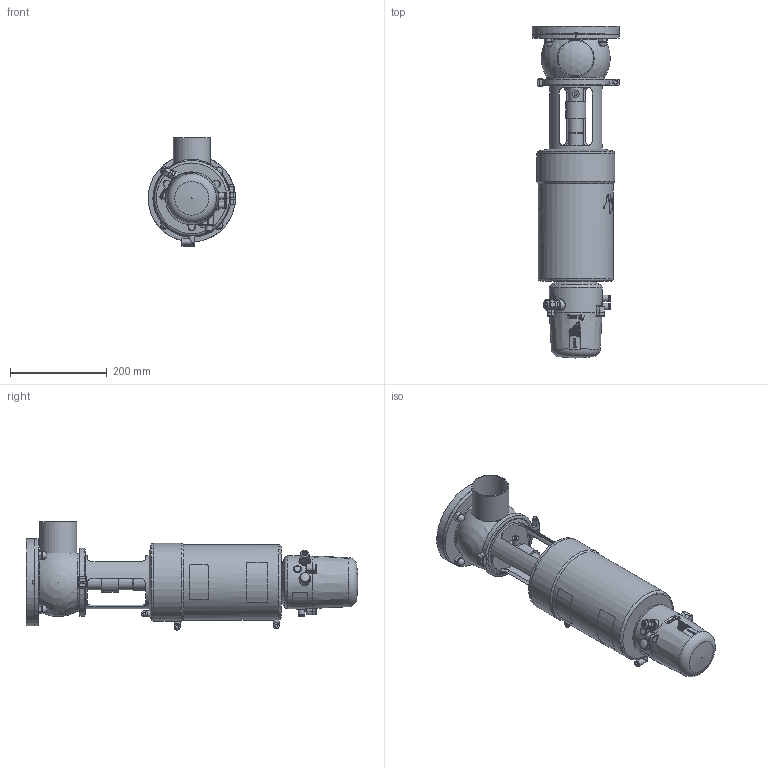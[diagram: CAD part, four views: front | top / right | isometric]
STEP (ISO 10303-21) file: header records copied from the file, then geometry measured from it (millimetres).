
FILE_DESCRIPTION (( 'STEP AP214' ), '1' );
FILE_NAME ('INNOVA T L W OD 3 WITH FLANGE & C-TOP S_10.252.16.0007.STEP', '2024-08-20T12:56:30', ( '' ), ( '' ), 'SwSTEP 2.0', 'SolidWorks 2023', '' );
FILE_SCHEMA (( 'AUTOMOTIVE_DESIGN' ));
Length unit declared in the file: millimetre
Products named in the file (7): 10.248.15.0003_DIN 080 _ OD 3"; 10.240.15.0001_DN 080; INNOVA T L W OD 3 WITH FLANGE & C-TOP S_10.252.16.0007; 10.240.15.0006_OD 3"; 10.426.15.0001_C-TOP S - 3 EV; 10.252.15.0001_OD 3"; 10.250.15.0002_Type T T2
Assembly tree (6 placements, depth 2):
  INNOVA T L W OD 3 WITH FLANGE & C-TOP S_10.252.16.0007
    10.240.15.0006_OD 3"
    10.248.15.0003_DIN 080 _ OD 3"
    10.252.15.0001_OD 3"
    10.250.15.0002_Type T T2
    10.240.15.0001_DN 080
    10.426.15.0001_C-TOP S - 3 EV
Bounding box: 181 x 686.43 x 224 mm (x, y, z)
Volume: 8961683.2 mm3; surface area: 592737.7 mm2
Topology: 6 solids, 6 shells, 1196 faces, 2879 edges, 1916 vertices
Faces by surface type: plane 416, cylinder 379, cone 196, bspline 162, torus 33, sphere 10
Full cylindrical faces by diameter (mm): 0.371 x17, 0.512 x16, 0.658 x16, 0.795 x16, 0.94 x15, 1.098 x15, 1.241 x13, 1.382 x13, 1.523 x11, 1.669 x10, 2.201 x1, 4.2 x2, 5 x1, 5.5 x2, 6 x5, 6.15 x3, 8 x3, 10 x1, 10.5 x3, 11 x4, 12 x1, 12.5 x9, 13 x6, 13.5 x2, 14 x2, 16 x4, 17 x3, 20 x2, 22 x2, 30.5 x2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
Entity records: 61482 total; most frequent: CARTESIAN_POINT 29299, ORIENTED_EDGE 4862, DIRECTION 3999, EDGE_CURVE 2431, VERTEX_POINT 1731, EDGE_LOOP 1690, AXIS2_PLACEMENT_3D 1619, FACE_OUTER_BOUND 1428
